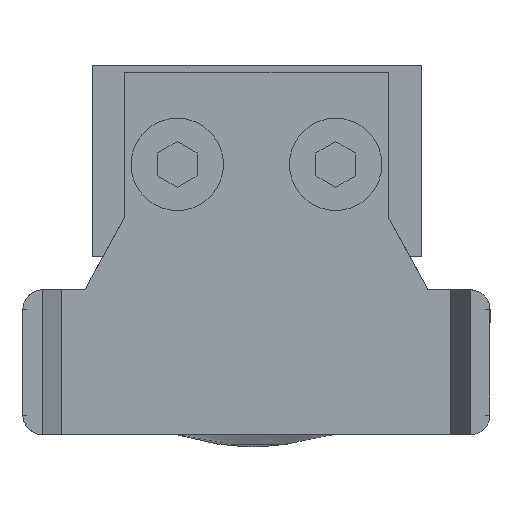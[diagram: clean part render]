
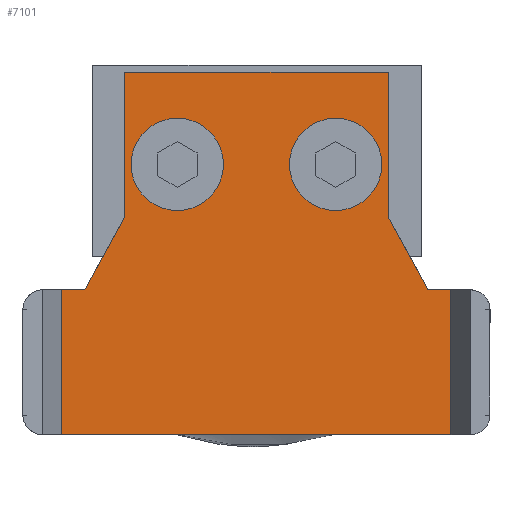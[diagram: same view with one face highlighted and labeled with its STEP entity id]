
A CAD part, left-side view. The second image highlights one B-rep face of the part: STEP entity #7101.
In plain terms, the highlighted planar face has unit normal (-1, 0, 0).
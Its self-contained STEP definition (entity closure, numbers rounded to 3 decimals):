
#34 = EDGE_CURVE ( 'NONE', #5830, #1720, #4369, .T. ) ;
#120 = DIRECTION ( 'NONE',  ( 0., 0.878, -0.479 ) ) ;
#196 = VERTEX_POINT ( 'NONE', #5515 ) ;
#270 = LINE ( 'NONE', #4234, #6289 ) ;
#364 = CARTESIAN_POINT ( 'NONE',  ( 4., 9.5, 6. ) ) ;
#386 = EDGE_CURVE ( 'NONE', #4476, #7406, #5815, .T. ) ;
#469 = ORIENTED_EDGE ( 'NONE', *, *, #2297, .F. ) ;
#592 = DIRECTION ( 'NONE',  ( 0., -1., 0. ) ) ;
#598 = DIRECTION ( 'NONE',  ( 0., 0., -1. ) ) ;
#638 = DIRECTION ( 'NONE',  ( 0., 0., 1. ) ) ;
#665 = DIRECTION ( 'NONE',  ( 0., 0., 1. ) ) ;
#682 = CARTESIAN_POINT ( 'NONE',  ( 4., 0., 13. ) ) ;
#843 = ORIENTED_EDGE ( 'NONE', *, *, #2809, .T. ) ;
#901 = ORIENTED_EDGE ( 'NONE', *, *, #5404, .F. ) ;
#915 = ORIENTED_EDGE ( 'NONE', *, *, #5153, .T. ) ;
#1044 = VECTOR ( 'NONE', #7157, 1000. ) ;
#1080 = VERTEX_POINT ( 'NONE', #3704 ) ;
#1338 = FACE_OUTER_BOUND ( 'NONE', #6731, .T. ) ;
#1370 = CARTESIAN_POINT ( 'NONE',  ( 4., 0., 14.744 ) ) ;
#1379 = CARTESIAN_POINT ( 'NONE',  ( 4., 5.5, 10. ) ) ;
#1481 = CARTESIAN_POINT ( 'NONE',  ( 4., 9.5, -6. ) ) ;
#1558 = ORIENTED_EDGE ( 'NONE', *, *, #3714, .F. ) ;
#1647 = ORIENTED_EDGE ( 'NONE', *, *, #386, .F. ) ;
#1693 = AXIS2_PLACEMENT_3D ( 'NONE', #1481, #3270, #2697 ) ;
#1720 = VERTEX_POINT ( 'NONE', #4272 ) ;
#1738 = ORIENTED_EDGE ( 'NONE', *, *, #4217, .T. ) ;
#1771 = ORIENTED_EDGE ( 'NONE', *, *, #2283, .F. ) ;
#1848 = CARTESIAN_POINT ( 'NONE',  ( 4., 9.5, -2.5 ) ) ;
#1900 = CARTESIAN_POINT ( 'NONE',  ( 4., -11., 20. ) ) ;
#2004 = CARTESIAN_POINT ( 'NONE',  ( 4., 0., -14.744 ) ) ;
#2057 = DIRECTION ( 'NONE',  ( 0., 0., -1. ) ) ;
#2116 = LINE ( 'NONE', #1900, #7404 ) ;
#2130 = AXIS2_PLACEMENT_3D ( 'NONE', #364, #3283, #4486 ) ;
#2217 = DIRECTION ( 'NONE',  ( 0., 0., 1. ) ) ;
#2258 = CARTESIAN_POINT ( 'NONE',  ( 4., 0., -13. ) ) ;
#2283 = EDGE_CURVE ( 'NONE', #3183, #4476, #3970, .T. ) ;
#2297 = EDGE_CURVE ( 'NONE', #5834, #196, #5709, .T. ) ;
#2395 = CARTESIAN_POINT ( 'NONE',  ( 4., 5.5, -10. ) ) ;
#2399 = CIRCLE ( 'NONE', #6364, 3.5 ) ;
#2473 = VERTEX_POINT ( 'NONE', #3456 ) ;
#2476 = DIRECTION ( 'NONE',  ( 0., 0., -1. ) ) ;
#2558 = CARTESIAN_POINT ( 'NONE',  ( 4., 0., -14.744 ) ) ;
#2571 = EDGE_LOOP ( 'NONE', ( #901, #5756 ) ) ;
#2589 = VECTOR ( 'NONE', #592, 1000. ) ;
#2600 = PLANE ( 'NONE',  #5627 ) ;
#2697 = DIRECTION ( 'NONE',  ( 0., 0., -1. ) ) ;
#2809 = EDGE_CURVE ( 'NONE', #5846, #7406, #6784, .T. ) ;
#2831 = VERTEX_POINT ( 'NONE', #1370 ) ;
#2832 = VECTOR ( 'NONE', #120, 1000. ) ;
#2918 = FACE_BOUND ( 'NONE', #2571, .T. ) ;
#2920 = DIRECTION ( 'NONE',  ( -1., 0., 0. ) ) ;
#3008 = EDGE_CURVE ( 'NONE', #3563, #5846, #4877, .T. ) ;
#3134 = CARTESIAN_POINT ( 'NONE',  ( 4., 16.5, 10. ) ) ;
#3171 = CARTESIAN_POINT ( 'NONE',  ( 4., -11., -14.744 ) ) ;
#3183 = VERTEX_POINT ( 'NONE', #3171 ) ;
#3270 = DIRECTION ( 'NONE',  ( -1., 0., 0. ) ) ;
#3283 = DIRECTION ( 'NONE',  ( -1., 0., 0. ) ) ;
#3350 = CARTESIAN_POINT ( 'NONE',  ( 4., 0., 0. ) ) ;
#3456 = CARTESIAN_POINT ( 'NONE',  ( 4., 16.5, 10. ) ) ;
#3490 = CARTESIAN_POINT ( 'NONE',  ( 4., 9.5, 6. ) ) ;
#3563 = VERTEX_POINT ( 'NONE', #6913 ) ;
#3612 = CARTESIAN_POINT ( 'NONE',  ( 4., 16.5, -10. ) ) ;
#3704 = CARTESIAN_POINT ( 'NONE',  ( 4., -11., 14.744 ) ) ;
#3714 = EDGE_CURVE ( 'NONE', #196, #5834, #2399, .T. ) ;
#3745 = CIRCLE ( 'NONE', #2130, 3.5 ) ;
#3970 = LINE ( 'NONE', #2558, #1044 ) ;
#4217 = EDGE_CURVE ( 'NONE', #3183, #1080, #2116, .T. ) ;
#4234 = CARTESIAN_POINT ( 'NONE',  ( 4., 0., 0. ) ) ;
#4272 = CARTESIAN_POINT ( 'NONE',  ( 4., 5.5, 10. ) ) ;
#4330 = CARTESIAN_POINT ( 'NONE',  ( 4., 9.5, 2.5 ) ) ;
#4369 = LINE ( 'NONE', #1379, #2832 ) ;
#4476 = VERTEX_POINT ( 'NONE', #2004 ) ;
#4477 = VECTOR ( 'NONE', #2476, 1000. ) ;
#4486 = DIRECTION ( 'NONE',  ( 0., 0., -1. ) ) ;
#4504 = ORIENTED_EDGE ( 'NONE', *, *, #5861, .F. ) ;
#4693 = EDGE_CURVE ( 'NONE', #6714, #6178, #7121, .T. ) ;
#4756 = VECTOR ( 'NONE', #7174, 1000. ) ;
#4856 = EDGE_CURVE ( 'NONE', #1720, #2473, #6650, .T. ) ;
#4877 = LINE ( 'NONE', #6429, #2589 ) ;
#4910 = VECTOR ( 'NONE', #2217, 1000. ) ;
#5035 = ORIENTED_EDGE ( 'NONE', *, *, #3008, .T. ) ;
#5153 = EDGE_CURVE ( 'NONE', #2473, #3563, #5931, .T. ) ;
#5404 = EDGE_CURVE ( 'NONE', #6178, #6714, #3745, .T. ) ;
#5444 = CARTESIAN_POINT ( 'NONE',  ( 4., 0., 14.744 ) ) ;
#5515 = CARTESIAN_POINT ( 'NONE',  ( 4., 9.5, -9.5 ) ) ;
#5560 = DIRECTION ( 'NONE',  ( 1., 0., 0. ) ) ;
#5572 = CARTESIAN_POINT ( 'NONE',  ( 4., 0., -13. ) ) ;
#5627 = AXIS2_PLACEMENT_3D ( 'NONE', #7332, #5560, #2057 ) ;
#5669 = LINE ( 'NONE', #5444, #7292 ) ;
#5709 = CIRCLE ( 'NONE', #1693, 3.5 ) ;
#5756 = ORIENTED_EDGE ( 'NONE', *, *, #4693, .F. ) ;
#5804 = CARTESIAN_POINT ( 'NONE',  ( 4., 9.5, -6. ) ) ;
#5815 = LINE ( 'NONE', #3350, #4910 ) ;
#5830 = VERTEX_POINT ( 'NONE', #682 ) ;
#5834 = VERTEX_POINT ( 'NONE', #1848 ) ;
#5846 = VERTEX_POINT ( 'NONE', #2395 ) ;
#5861 = EDGE_CURVE ( 'NONE', #5830, #2831, #270, .T. ) ;
#5931 = LINE ( 'NONE', #3612, #4477 ) ;
#6027 = ORIENTED_EDGE ( 'NONE', *, *, #4856, .T. ) ;
#6178 = VERTEX_POINT ( 'NONE', #4330 ) ;
#6266 = EDGE_LOOP ( 'NONE', ( #1558, #469 ) ) ;
#6289 = VECTOR ( 'NONE', #638, 1000. ) ;
#6340 = EDGE_CURVE ( 'NONE', #2831, #1080, #5669, .T. ) ;
#6351 = DIRECTION ( 'NONE',  ( -1., 0., 0. ) ) ;
#6364 = AXIS2_PLACEMENT_3D ( 'NONE', #5804, #6351, #598 ) ;
#6429 = CARTESIAN_POINT ( 'NONE',  ( 4., 5.5, -10. ) ) ;
#6650 = LINE ( 'NONE', #3134, #4756 ) ;
#6714 = VERTEX_POINT ( 'NONE', #7086 ) ;
#6715 = AXIS2_PLACEMENT_3D ( 'NONE', #3490, #2920, #6978 ) ;
#6731 = EDGE_LOOP ( 'NONE', ( #1738, #7193, #4504, #6816, #6027, #915, #5035, #843, #1647, #1771 ) ) ;
#6784 = LINE ( 'NONE', #5572, #7053 ) ;
#6816 = ORIENTED_EDGE ( 'NONE', *, *, #34, .T. ) ;
#6913 = CARTESIAN_POINT ( 'NONE',  ( 4., 16.5, -10. ) ) ;
#6978 = DIRECTION ( 'NONE',  ( 0., 0., -1. ) ) ;
#7053 = VECTOR ( 'NONE', #7290, 1000. ) ;
#7086 = CARTESIAN_POINT ( 'NONE',  ( 4., 9.5, 9.5 ) ) ;
#7101 = ADVANCED_FACE ( 'NONE', ( #1338, #7549, #2918 ), #2600, .F. ) ;
#7121 = CIRCLE ( 'NONE', #6715, 3.5 ) ;
#7157 = DIRECTION ( 'NONE',  ( 0., 1., 0. ) ) ;
#7174 = DIRECTION ( 'NONE',  ( 0., 1., 0. ) ) ;
#7193 = ORIENTED_EDGE ( 'NONE', *, *, #6340, .F. ) ;
#7238 = DIRECTION ( 'NONE',  ( 0., -1., 0. ) ) ;
#7290 = DIRECTION ( 'NONE',  ( 0., -0.878, -0.479 ) ) ;
#7292 = VECTOR ( 'NONE', #7238, 1000. ) ;
#7332 = CARTESIAN_POINT ( 'NONE',  ( 4., 0., 0. ) ) ;
#7404 = VECTOR ( 'NONE', #665, 1000. ) ;
#7406 = VERTEX_POINT ( 'NONE', #2258 ) ;
#7549 = FACE_BOUND ( 'NONE', #6266, .T. ) ;
